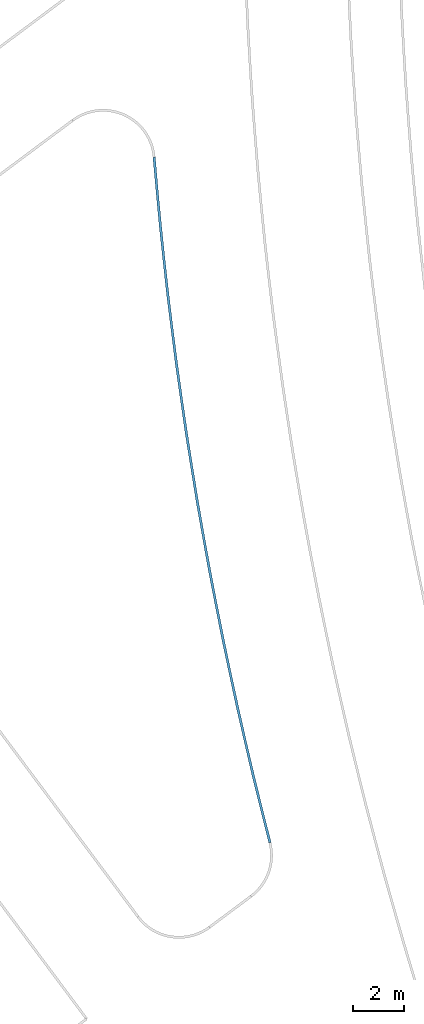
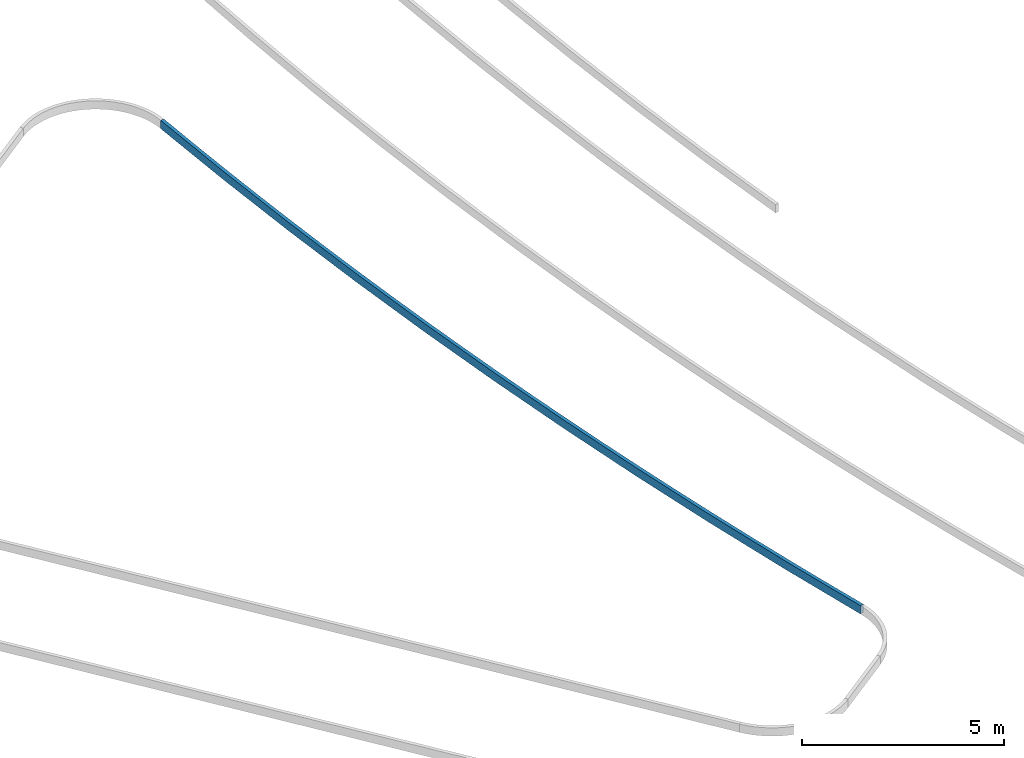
# One storey, part 17 of 24: 1 beam.
"""IFC2X3 building model written with IfcOpenShell, lengths in millimetres."""

from ifc_helpers import new_model, entity, si_unit, converted_unit, derived_unit, direction, frame, origin, place, context, subcontext, project, spatial, faceted_brep, material, type_object, element, save


model = new_model("IFC2X3")

# Units and contexts
model_context = context("Model", 3, precision=0.01, world=origin(), true_north=direction((6.123031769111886e-17, 1.0)))
body_context = subcontext(model_context, "Body", "Model", "MODEL_VIEW")
ifc_project = project(units=[si_unit("LENGTHUNIT", "METRE", prefix="MILLI"), si_unit("AREAUNIT", "SQUARE_METRE"), si_unit("VOLUMEUNIT", "CUBIC_METRE"), converted_unit("PLANEANGLEUNIT", "DEGREE", entity("IfcRatioMeasure", 0.017453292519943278), si_unit("PLANEANGLEUNIT", "RADIAN"), dimensions=[0, 0, 0, 0, 0, 0, 0]), si_unit("MASSUNIT", "GRAM", prefix="KILO"), derived_unit("MASSDENSITYUNIT", [(si_unit("MASSUNIT", "GRAM", prefix="KILO"), 1), (si_unit("LENGTHUNIT", "METRE"), -3)]), derived_unit("MOMENTOFINERTIAUNIT", [(si_unit("LENGTHUNIT", "METRE"), 4)]), si_unit("TIMEUNIT", "SECOND"), si_unit("FREQUENCYUNIT", "HERTZ"), si_unit("THERMODYNAMICTEMPERATUREUNIT", "DEGREE_CELSIUS"), derived_unit("THERMALTRANSMITTANCEUNIT", [(si_unit("MASSUNIT", "GRAM", prefix="KILO"), 1), (si_unit("THERMODYNAMICTEMPERATUREUNIT", "KELVIN"), -1), (si_unit("TIMEUNIT", "SECOND"), -3)]), derived_unit("THERMALCONDUCTANCEUNIT", [(si_unit("MASSUNIT", "GRAM", prefix="KILO"), 1), (si_unit("LENGTHUNIT", "METRE"), 1), (si_unit("THERMODYNAMICTEMPERATUREUNIT", "KELVIN"), -1), (si_unit("TIMEUNIT", "SECOND"), -3)]), derived_unit("VOLUMETRICFLOWRATEUNIT", [(si_unit("LENGTHUNIT", "METRE"), 3), (si_unit("TIMEUNIT", "SECOND"), -1)]), derived_unit("MASSFLOWRATEUNIT", [(si_unit("MASSUNIT", "GRAM", prefix="KILO"), 1), (si_unit("TIMEUNIT", "SECOND"), -1)]), derived_unit("ROTATIONALFREQUENCYUNIT", [(si_unit("TIMEUNIT", "SECOND"), -1)]), si_unit("ELECTRICCURRENTUNIT", "AMPERE"), si_unit("ELECTRICVOLTAGEUNIT", "VOLT"), si_unit("POWERUNIT", "WATT"), converted_unit("FORCEUNIT", "KIP", entity("IfcRatioMeasure", 2.088543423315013e-05), si_unit("FORCEUNIT", "NEWTON"), dimensions=[1, 1, -2, 0, 0, 0, 0]), si_unit("ILLUMINANCEUNIT", "LUX"), si_unit("LUMINOUSFLUXUNIT", "LUMEN"), si_unit("LUMINOUSINTENSITYUNIT", "CANDELA"), derived_unit("USERDEFINED", [(si_unit("MASSUNIT", "GRAM", prefix="KILO"), -1), (si_unit("LENGTHUNIT", "METRE"), -2), (si_unit("TIMEUNIT", "SECOND"), 3), (si_unit("LUMINOUSFLUXUNIT", "LUMEN"), 1)]), derived_unit("USERDEFINED", [(si_unit("MASSUNIT", "GRAM", prefix="KILO"), 1), (si_unit("LENGTHUNIT", "METRE"), 3), (si_unit("TIMEUNIT", "SECOND"), -3), (si_unit("ELECTRICCURRENTUNIT", "AMPERE"), -2)]), derived_unit("USERDEFINED", [(si_unit("LENGTHUNIT", "METRE"), 2), (si_unit("TIMEUNIT", "SECOND"), -2)]), derived_unit("SOUNDPOWERUNIT", [(si_unit("MASSUNIT", "GRAM", prefix="KILO"), 1), (si_unit("LENGTHUNIT", "METRE"), 2), (si_unit("TIMEUNIT", "SECOND"), -3)]), derived_unit("SOUNDPRESSUREUNIT", [(si_unit("MASSUNIT", "GRAM", prefix="KILO"), 1), (si_unit("LENGTHUNIT", "METRE"), -1), (si_unit("TIMEUNIT", "SECOND"), -2)]), derived_unit("LINEARVELOCITYUNIT", [(si_unit("LENGTHUNIT", "METRE"), 1), (si_unit("TIMEUNIT", "SECOND"), -1)]), si_unit("PRESSUREUNIT", "PASCAL"), derived_unit("USERDEFINED", [(si_unit("LENGTHUNIT", "METRE"), -2), (si_unit("MASSUNIT", "GRAM", prefix="KILO"), 1), (si_unit("TIMEUNIT", "SECOND"), -2)]), derived_unit("LINEARFORCEUNIT", [(si_unit("MASSUNIT", "GRAM", prefix="KILO"), 1), (si_unit("LENGTHUNIT", "METRE"), 1), (si_unit("TIMEUNIT", "SECOND"), -2), (si_unit("LENGTHUNIT", "METRE"), -1)]), derived_unit("PLANARFORCEUNIT", [(si_unit("MASSUNIT", "GRAM", prefix="KILO"), 1), (si_unit("LENGTHUNIT", "METRE"), 1), (si_unit("TIMEUNIT", "SECOND"), -2), (si_unit("LENGTHUNIT", "METRE"), -2)]), derived_unit("SPECIFICHEATCAPACITYUNIT", [(si_unit("LENGTHUNIT", "METRE"), 2), (si_unit("TIMEUNIT", "SECOND"), -2), (si_unit("THERMODYNAMICTEMPERATUREUNIT", "KELVIN"), -1)]), derived_unit("VAPORPERMEABILITYUNIT", [(si_unit("TIMEUNIT", "SECOND"), 1), (si_unit("LENGTHUNIT", "METRE"), -1)]), derived_unit("DYNAMICVISCOSITYUNIT", [(si_unit("MASSUNIT", "GRAM", prefix="KILO"), 1), (si_unit("LENGTHUNIT", "METRE"), -1), (si_unit("TIMEUNIT", "SECOND"), -1)]), derived_unit("THERMALEXPANSIONCOEFFICIENTUNIT", [(si_unit("THERMODYNAMICTEMPERATUREUNIT", "KELVIN"), -1)])], contexts=[model_context])

# Site, building, storey
site_placement = place(None, frame((0.0, 0.0, 0.0), z_axis=(0.0, 0.0, 1.0), x_axis=(0.8191520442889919, 0.5735764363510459, 0.0)))
site = spatial("IfcSite", under=ifc_project, at=site_placement, Name="Default", CompositionType="ELEMENT")
building_placement = place(site_placement, origin())
building = spatial("IfcBuilding", under=site, at=building_placement, CompositionType="ELEMENT")
storey_placement = place(building_placement, frame((0.0, 0.0, -1150.0)))
storey = spatial("IfcBuildingStorey", under=building, at=storey_placement, Name="6.EG KH -1.15", CompositionType="ELEMENT", Elevation=-1150.0000000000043)

# Beam
ifc_material = material(Name="Paveta_bordur")
beam_type = type_object("IfcBeamType", Name="Beam-141", PredefinedType="NOTDEFINED")
beam_placement = place(storey_placement, frame((-158940.58713167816, 53482.157381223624, 920.0)))
element("IfcBeam", 1, at=beam_placement, inside=storey, type_object=beam_type, material=ifc_material, Name="Beam-141 238166:Beam-141 238166", ObjectType="Beam-141 238166:Beam-141 238166", context=body_context, shape_type="Brep", body=[
    faceted_brep([(95.24155704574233, 1.5952722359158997, 0.0), (95.24155704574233, 1.5952722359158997, 250.0), (1.5952722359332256, 36.67195026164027, 250.0), (1.5952722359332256, 36.67195026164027, 0.0), (11669.886192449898, 24601.362133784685, 250.0), (11756.242073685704, 24550.937320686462, 250.0), (11756.242073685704, 24550.937320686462, 0.0), (11669.886192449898, 24601.362133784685, 0.0), (1575.5546752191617, 3805.213969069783, 0.0), (1575.5546752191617, 3805.213969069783, 250.0), (1071.3381803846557, 2541.5536232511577, 250.0), (1071.3381803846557, 2541.5536232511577, 0.0), (577.8885735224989, 1273.6501455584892, 250.0), (577.8885735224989, 1273.6501455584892, 0.0), (2090.5015765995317, 5064.539753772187, 0.0), (2090.5015765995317, 5064.539753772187, 250.0), (4256.8365029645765, 10056.679811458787, 0.0), (4256.8365029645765, 10056.679811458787, 250.0), (3699.3482763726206, 8815.600192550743, 250.0), (3699.3482763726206, 8815.600192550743, 0.0), (3152.4367941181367, 7569.823497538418, 250.0), (2616.141626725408, 6319.439861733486, 250.0), (2616.141626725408, 6319.439861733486, 0.0), (3152.4367941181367, 7569.823497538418, 0.0), (4824.861138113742, 11292.972558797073, 250.0), (4824.861138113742, 11292.972558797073, 0.0), (5403.381083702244, 12524.388985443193, 0.0), (5403.381083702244, 12524.388985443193, 250.0), (7821.565494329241, 17399.51498637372, 250.0), (7201.4904296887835, 16188.491180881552, 250.0), (7201.4904296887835, 16188.491180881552, 0.0), (7821.565494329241, 17399.51498637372, 0.0), (6591.738719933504, 14972.236850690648, 250.0), (5992.354482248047, 13750.839995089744, 250.0), (5992.354482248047, 13750.839995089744, 0.0), (6591.738719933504, 14972.236850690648, 0.0), (8451.919049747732, 18605.220646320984, 250.0), (8451.919049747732, 18605.220646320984, 0.0), (11075.19493804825, 23373.123013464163, 0.0), (11075.19493804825, 23373.123013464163, 250.0), (10404.190884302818, 22189.55835400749, 250.0), (10404.190884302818, 22189.55835400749, 0.0), (9743.278461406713, 21000.32897641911, 250.0), (9092.505488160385, 19805.52092465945, 250.0), (9092.505488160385, 19805.52092465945, 0.0), (9743.278461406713, 21000.32897641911, 0.0), (7732.749671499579, 17445.468763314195, 250.0), (7117.451843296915, 16231.070933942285, 250.0), (6502.154015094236, 15016.673104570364, 250.0), (5907.60371913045, 13791.983980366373, 250.0), (5313.053423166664, 12567.294856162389, 250.0), (4739.422725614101, 11332.668868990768, 250.0), (4165.792028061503, 10098.042881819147, 250.0), (3613.246940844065, 8853.83733932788, 250.0), (3060.7018536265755, 7609.631796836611, 250.0), (2529.402286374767, 6356.2067790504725, 250.0), (1998.1027191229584, 5102.781761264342, 250.0), (1488.202432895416, 3840.500016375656, 250.0), (978.302146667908, 2578.2182714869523, 250.0), (489.94870945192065, 1307.4451108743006, 250.0), (10802.27422602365, 23086.063996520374, 250.0), (10316.989706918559, 22238.506843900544, 250.0), (9660.73697902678, 21045.742884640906, 250.0), (9004.484251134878, 19852.9789253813, 250.0), (8368.616961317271, 18649.22384434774, 250.0), (978.3021466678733, 2578.218271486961, 0.0), (627.9572140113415, 1666.5651460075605, 0.0), (4739.4227256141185, 11332.668868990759, 0.0), (4165.792028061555, 10098.042881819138, 0.0), (5313.053423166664, 12567.294856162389, 0.0), (3060.7018536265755, 7609.631796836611, 0.0), (2529.402286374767, 6356.2067790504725, 0.0), (1998.1027191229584, 5102.781761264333, 0.0), (6502.154015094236, 15016.673104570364, 0.0), (5907.60371913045, 13791.983980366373, 0.0), (1488.202432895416, 3840.500016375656, 0.0), (3613.2469408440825, 8853.83733932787, 0.0), (7117.451843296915, 16231.070933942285, 0.0), (7732.749671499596, 17445.468763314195, 0.0), (10993.437949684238, 23419.934488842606, 0.0), (10316.989706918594, 22238.506843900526, 0.0), (9660.73697902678, 21045.742884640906, 0.0), (9004.484251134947, 19852.97892538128, 0.0), (8368.616961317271, 18649.22384434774, 0.0)], [[[0, 1, 2, 3]], [[4, 5, 6, 7]], [[8, 9, 10, 11]], [[12, 13, 11, 10]], [[13, 12, 1, 0]], [[9, 8, 14, 15]], [[16, 17, 18, 19]], [[20, 21, 22, 23]], [[20, 23, 19, 18]], [[22, 21, 15, 14]], [[24, 17, 16, 25]], [[24, 25, 26, 27]], [[28, 29, 30, 31]], [[32, 33, 34, 35]], [[32, 35, 30, 29]], [[36, 28, 31, 37]], [[38, 39, 40, 41]], [[42, 43, 44, 45]], [[40, 42, 45, 41]], [[44, 43, 36, 37]], [[5, 39, 38, 6]], [[33, 27, 26, 34]], [[46, 47, 48, 49, 50, 51, 52, 53, 54, 55, 56, 57, 58, 59, 2, 1, 12, 10, 9, 15, 21, 20, 18, 17, 24, 27, 33, 32, 29, 28, 36, 43, 42, 40, 39, 5, 4, 60, 61, 62, 63, 64]], [[58, 65, 66, 3, 2, 59]], [[67, 68, 52, 51, 50, 69]], [[56, 55, 54, 70, 71, 72]], [[49, 48, 73, 74, 69, 50]], [[58, 57, 56, 72, 75, 65]], [[54, 53, 52, 68, 76, 70]], [[77, 73, 48, 47, 46, 78]], [[60, 4, 7, 79, 80, 61]], [[63, 62, 61, 80, 81, 82]], [[83, 78, 46, 64, 63, 82]], [[31, 30, 35, 34, 26, 25, 16, 19, 23, 22, 14, 8, 11, 13, 0, 3, 66, 65, 75, 72, 71, 70, 76, 68, 67, 69, 74, 73, 77, 78, 83, 82, 81, 80, 79, 7, 6, 38, 41, 45, 44, 37]]]),
])

save(model, "model.ifc")
